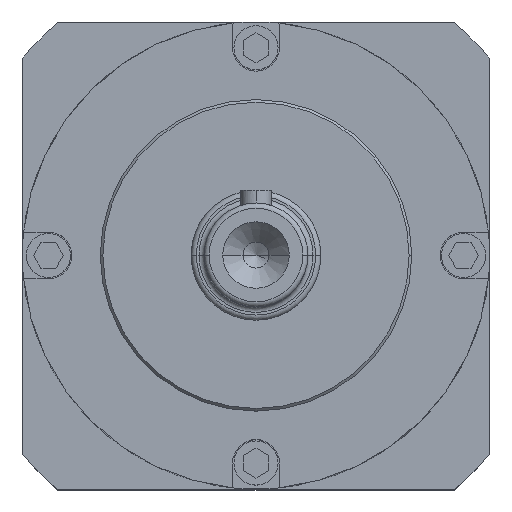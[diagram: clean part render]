
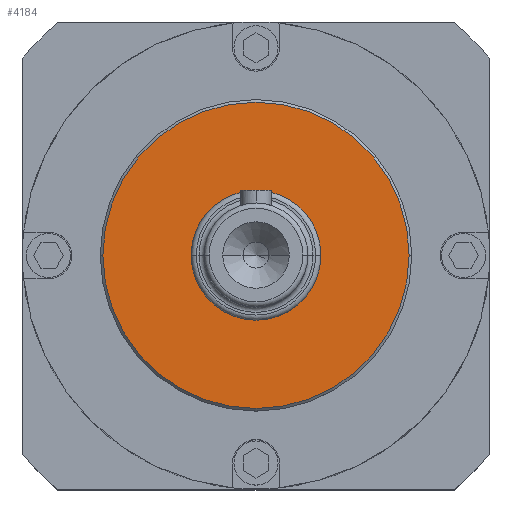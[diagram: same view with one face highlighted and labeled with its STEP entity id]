
A CAD part, top view. The second image highlights one B-rep face of the part: STEP entity #4184.
In plain terms, the highlighted planar face has unit normal (0, 0, 1).
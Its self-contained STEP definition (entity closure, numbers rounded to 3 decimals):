
#5 = DIRECTION ( 'NONE',  ( 1., 0., 0. ) ) ;
#35 = DIRECTION ( 'NONE',  ( 0., 0., 1. ) ) ;
#275 = DIRECTION ( 'NONE',  ( 1., 0., 0. ) ) ;
#364 = DIRECTION ( 'NONE',  ( 1., 0., 0. ) ) ;
#523 = CARTESIAN_POINT ( 'NONE',  ( 0., 0., 25. ) ) ;
#551 = ORIENTED_EDGE ( 'NONE', *, *, #1547, .T. ) ;
#605 = ORIENTED_EDGE ( 'NONE', *, *, #1439, .F. ) ;
#787 = CARTESIAN_POINT ( 'NONE',  ( 29.5, 0., 25. ) ) ;
#834 = CARTESIAN_POINT ( 'NONE',  ( -29.5, 0., 25. ) ) ;
#838 = AXIS2_PLACEMENT_3D ( 'NONE', #2043, #2029, #364 ) ;
#1191 = DIRECTION ( 'NONE',  ( 0., 0., 1. ) ) ;
#1226 = ORIENTED_EDGE ( 'NONE', *, *, #2715, .T. ) ;
#1253 = DIRECTION ( 'NONE',  ( 0., 0., 1. ) ) ;
#1368 = AXIS2_PLACEMENT_3D ( 'NONE', #523, #2844, #2475 ) ;
#1437 = CIRCLE ( 'NONE', #2681, 29.5 ) ;
#1439 = EDGE_CURVE ( 'NONE', #3512, #3135, #3435, .T. ) ;
#1547 = EDGE_CURVE ( 'NONE', #4067, #2598, #2418, .T. ) ;
#1630 = EDGE_LOOP ( 'NONE', ( #551, #1226 ) ) ;
#1679 = EDGE_CURVE ( 'NONE', #3135, #3512, #3992, .T. ) ;
#1929 = PLANE ( 'NONE',  #3597 ) ;
#1937 = CARTESIAN_POINT ( 'NONE',  ( 0., 0., 25. ) ) ;
#2029 = DIRECTION ( 'NONE',  ( 0., 0., 1. ) ) ;
#2043 = CARTESIAN_POINT ( 'NONE',  ( 0., 0., 25. ) ) ;
#2249 = EDGE_LOOP ( 'NONE', ( #605, #4154 ) ) ;
#2418 = CIRCLE ( 'NONE', #3650, 29.5 ) ;
#2475 = DIRECTION ( 'NONE',  ( 1., 0., 0. ) ) ;
#2598 = VERTEX_POINT ( 'NONE', #787 ) ;
#2606 = FACE_OUTER_BOUND ( 'NONE', #1630, .T. ) ;
#2681 = AXIS2_PLACEMENT_3D ( 'NONE', #4161, #1191, #3819 ) ;
#2715 = EDGE_CURVE ( 'NONE', #2598, #4067, #1437, .T. ) ;
#2756 = FACE_BOUND ( 'NONE', #2249, .T. ) ;
#2790 = CARTESIAN_POINT ( 'NONE',  ( 12.5, 0., 25. ) ) ;
#2844 = DIRECTION ( 'NONE',  ( 0., 0., 1. ) ) ;
#3135 = VERTEX_POINT ( 'NONE', #3220 ) ;
#3185 = CARTESIAN_POINT ( 'NONE',  ( 0., 0., 25. ) ) ;
#3220 = CARTESIAN_POINT ( 'NONE',  ( -12.5, 0., 25. ) ) ;
#3435 = CIRCLE ( 'NONE', #1368, 12.5 ) ;
#3512 = VERTEX_POINT ( 'NONE', #2790 ) ;
#3597 = AXIS2_PLACEMENT_3D ( 'NONE', #3185, #1253, #275 ) ;
#3650 = AXIS2_PLACEMENT_3D ( 'NONE', #1937, #35, #5 ) ;
#3819 = DIRECTION ( 'NONE',  ( 1., 0., 0. ) ) ;
#3992 = CIRCLE ( 'NONE', #838, 12.5 ) ;
#4067 = VERTEX_POINT ( 'NONE', #834 ) ;
#4154 = ORIENTED_EDGE ( 'NONE', *, *, #1679, .F. ) ;
#4161 = CARTESIAN_POINT ( 'NONE',  ( 0., 0., 25. ) ) ;
#4184 = ADVANCED_FACE ( 'NONE', ( #2756, #2606 ), #1929, .T. ) ;
